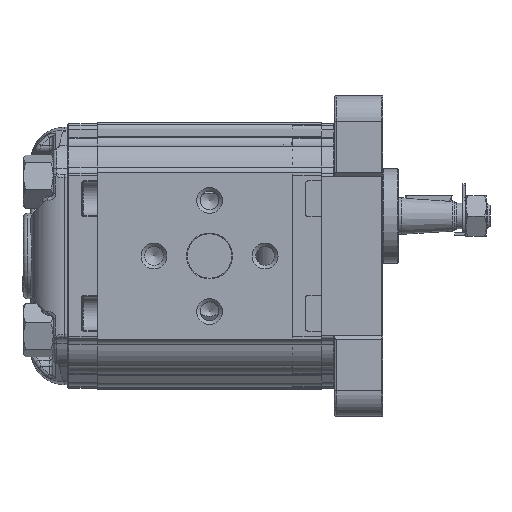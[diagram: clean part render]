
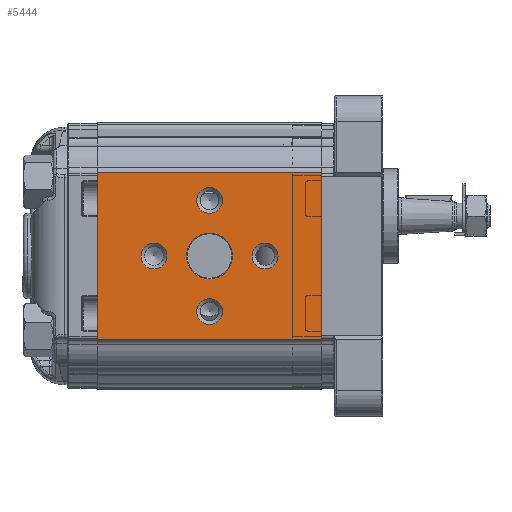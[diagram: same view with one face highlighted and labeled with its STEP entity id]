
A CAD part, left-side view. The second image highlights one B-rep face of the part: STEP entity #5444.
In plain terms, the highlighted planar face has unit normal (-1, 0, 0).
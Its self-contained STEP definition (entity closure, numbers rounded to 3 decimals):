
#5444 = ADVANCED_FACE( '', ( #11492, #11493, #11494, #11495, #11496, #11497 ), #11498, .T. );
#11492 = FACE_BOUND( '', #20801, .T. );
#11493 = FACE_BOUND( '', #20802, .T. );
#11494 = FACE_BOUND( '', #20803, .T. );
#11495 = FACE_BOUND( '', #20804, .T. );
#11496 = FACE_BOUND( '', #20805, .T. );
#11497 = FACE_OUTER_BOUND( '', #20806, .T. );
#11498 = PLANE( '', #20807 );
#20801 = EDGE_LOOP( '', ( #36892 ) );
#20802 = EDGE_LOOP( '', ( #36893 ) );
#20803 = EDGE_LOOP( '', ( #36894 ) );
#20804 = EDGE_LOOP( '', ( #36895 ) );
#20805 = EDGE_LOOP( '', ( #36896 ) );
#20806 = EDGE_LOOP( '', ( #36897, #36898, #36899, #36900 ) );
#20807 = AXIS2_PLACEMENT_3D( '', #36901, #36902, #36903 );
#36892 = ORIENTED_EDGE( '', *, *, #46469, .T. );
#36893 = ORIENTED_EDGE( '', *, *, #43637, .T. );
#36894 = ORIENTED_EDGE( '', *, *, #45676, .T. );
#36895 = ORIENTED_EDGE( '', *, *, #46198, .T. );
#36896 = ORIENTED_EDGE( '', *, *, #45542, .T. );
#36897 = ORIENTED_EDGE( '', *, *, #40832, .T. );
#36898 = ORIENTED_EDGE( '', *, *, #42943, .T. );
#36899 = ORIENTED_EDGE( '', *, *, #41436, .T. );
#36900 = ORIENTED_EDGE( '', *, *, #44230, .F. );
#36901 = CARTESIAN_POINT( '', ( -33., 132.376, 48.138 ) );
#36902 = DIRECTION( '', ( -1., 0., 0. ) );
#36903 = DIRECTION( '', ( 0., 0., 1. ) );
#40832 = EDGE_CURVE( '', #48524, #48525, #48526, .T. );
#41436 = EDGE_CURVE( '', #49562, #49563, #49564, .F. );
#42943 = EDGE_CURVE( '', #48525, #49562, #51969, .T. );
#43637 = EDGE_CURVE( '', #52966, #52966, #52967, .F. );
#44230 = EDGE_CURVE( '', #48524, #49563, #53803, .T. );
#45542 = EDGE_CURVE( '', #55502, #55502, #55503, .F. );
#45676 = EDGE_CURVE( '', #55676, #55676, #55677, .F. );
#46198 = EDGE_CURVE( '', #56271, #56271, #56272, .F. );
#46469 = EDGE_CURVE( '', #56565, #56565, #56566, .F. );
#48524 = VERTEX_POINT( '', #60005 );
#48525 = VERTEX_POINT( '', #60006 );
#48526 = LINE( '', #60007, #60008 );
#49562 = VERTEX_POINT( '', #62104 );
#49563 = VERTEX_POINT( '', #62105 );
#49564 = LINE( '', #62106, #62107 );
#51969 = LINE( '', #67061, #67062 );
#52966 = VERTEX_POINT( '', #69055 );
#52967 = CIRCLE( '', #69056, 3.5 );
#53803 = LINE( '', #70862, #70863 );
#55502 = VERTEX_POINT( '', #74002 );
#55503 = CIRCLE( '', #74003, 6.2 );
#55676 = VERTEX_POINT( '', #74453 );
#55677 = CIRCLE( '', #74454, 3.5 );
#56271 = VERTEX_POINT( '', #75675 );
#56272 = CIRCLE( '', #75676, 3.5 );
#56565 = VERTEX_POINT( '', #76087 );
#56566 = CIRCLE( '', #76088, 3.5 );
#60005 = CARTESIAN_POINT( '', ( -33., 60.5, -22.5 ) );
#60006 = CARTESIAN_POINT( '', ( -33., 0., -22.5 ) );
#60007 = CARTESIAN_POINT( '', ( -33., 60.5, -22.5 ) );
#60008 = VECTOR( '', #77857, 1000. );
#62104 = CARTESIAN_POINT( '', ( -33., 0., 22.5 ) );
#62105 = CARTESIAN_POINT( '', ( -33., 60.5, 22.5 ) );
#62106 = CARTESIAN_POINT( '', ( -33., 60.5, 22.5 ) );
#62107 = VECTOR( '', #78550, 1000. );
#67061 = CARTESIAN_POINT( '', ( -33., 0., -21.711 ) );
#67062 = VECTOR( '', #80417, 1000. );
#69055 = CARTESIAN_POINT( '', ( -33., 15.25, 3.5 ) );
#69056 = AXIS2_PLACEMENT_3D( '', #81186, #81187, #81188 );
#70862 = CARTESIAN_POINT( '', ( -33., 60.5, -21.711 ) );
#70863 = VECTOR( '', #81821, 1000. );
#74002 = CARTESIAN_POINT( '', ( -33., 30.25, 6.2 ) );
#74003 = AXIS2_PLACEMENT_3D( '', #83230, #83231, #83232 );
#74453 = CARTESIAN_POINT( '', ( -33., 30.25, 18.5 ) );
#74454 = AXIS2_PLACEMENT_3D( '', #83368, #83369, #83370 );
#75675 = CARTESIAN_POINT( '', ( -33., 45.25, 3.5 ) );
#75676 = AXIS2_PLACEMENT_3D( '', #83811, #83812, #83813 );
#76087 = CARTESIAN_POINT( '', ( -33., 30.25, -11.5 ) );
#76088 = AXIS2_PLACEMENT_3D( '', #84036, #84037, #84038 );
#77857 = DIRECTION( '', ( 0., -1., 0. ) );
#78550 = DIRECTION( '', ( 0., -1., 0. ) );
#80417 = DIRECTION( '', ( 0., 0., 1. ) );
#81186 = CARTESIAN_POINT( '', ( -33., 15.25, 0. ) );
#81187 = DIRECTION( '', ( -1., 0., 0. ) );
#81188 = DIRECTION( '', ( 0., 0., 1. ) );
#81821 = DIRECTION( '', ( 0., 0., 1. ) );
#83230 = CARTESIAN_POINT( '', ( -33., 30.25, 0. ) );
#83231 = DIRECTION( '', ( -1., 0., 0. ) );
#83232 = DIRECTION( '', ( 0., 0., 1. ) );
#83368 = CARTESIAN_POINT( '', ( -33., 30.25, 15. ) );
#83369 = DIRECTION( '', ( -1., 0., 0. ) );
#83370 = DIRECTION( '', ( 0., 0., 1. ) );
#83811 = CARTESIAN_POINT( '', ( -33., 45.25, 0. ) );
#83812 = DIRECTION( '', ( -1., 0., 0. ) );
#83813 = DIRECTION( '', ( 0., 0., 1. ) );
#84036 = CARTESIAN_POINT( '', ( -33., 30.25, -15. ) );
#84037 = DIRECTION( '', ( -1., 0., 0. ) );
#84038 = DIRECTION( '', ( 0., 0., 1. ) );
